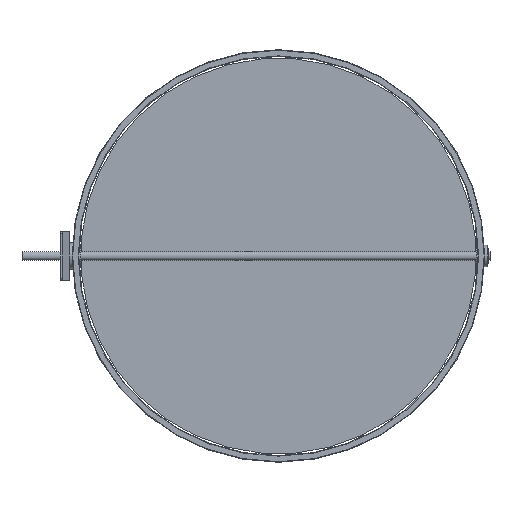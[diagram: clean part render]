
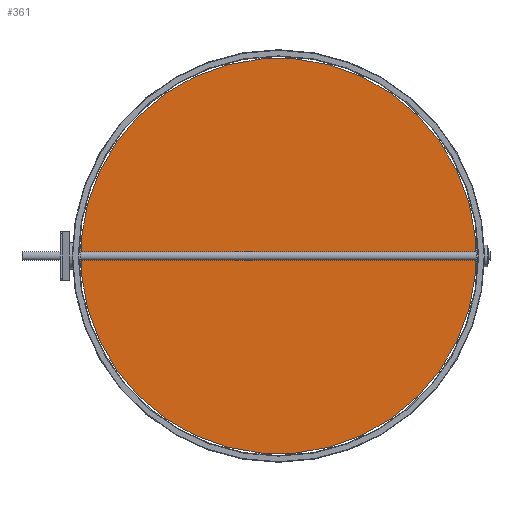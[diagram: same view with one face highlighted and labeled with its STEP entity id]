
A CAD part, left-side view. The second image highlights one B-rep face of the part: STEP entity #361.
In plain terms, the highlighted planar face has unit normal (-1, 0, 0).
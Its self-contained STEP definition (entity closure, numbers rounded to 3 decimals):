
#149=LINE('',#2045,#197);
#154=LINE('',#2059,#202);
#197=VECTOR('',#1633,1.);
#202=VECTOR('',#1646,1.);
#361=ADVANCED_FACE('',(#497,#498,#499,#500,#501,#502,#503,#504),#397,.T.);
#397=PLANE('',#1347);
#497=FACE_BOUND('',#641,.T.);
#498=FACE_BOUND('',#642,.T.);
#499=FACE_BOUND('',#643,.T.);
#500=FACE_BOUND('',#644,.T.);
#501=FACE_BOUND('',#645,.T.);
#502=FACE_BOUND('',#646,.T.);
#503=FACE_BOUND('',#647,.T.);
#504=FACE_BOUND('',#648,.T.);
#641=EDGE_LOOP('',(#883,#884,#885,#886));
#642=EDGE_LOOP('',(#887));
#643=EDGE_LOOP('',(#888));
#644=EDGE_LOOP('',(#889));
#645=EDGE_LOOP('',(#890));
#646=EDGE_LOOP('',(#891));
#647=EDGE_LOOP('',(#892));
#648=EDGE_LOOP('',(#893));
#883=ORIENTED_EDGE('',*,*,#1122,.T.);
#884=ORIENTED_EDGE('',*,*,#1101,.T.);
#885=ORIENTED_EDGE('',*,*,#1105,.T.);
#886=ORIENTED_EDGE('',*,*,#1108,.T.);
#887=ORIENTED_EDGE('',*,*,#1119,.T.);
#888=ORIENTED_EDGE('',*,*,#1117,.F.);
#889=ORIENTED_EDGE('',*,*,#1115,.F.);
#890=ORIENTED_EDGE('',*,*,#1113,.F.);
#891=ORIENTED_EDGE('',*,*,#1111,.F.);
#892=ORIENTED_EDGE('',*,*,#1109,.F.);
#893=ORIENTED_EDGE('',*,*,#1123,.F.);
#981=VERTEX_POINT('',#2044);
#982=VERTEX_POINT('',#2046);
#984=VERTEX_POINT('',#2052);
#986=VERTEX_POINT('',#2058);
#987=VERTEX_POINT('',#2062);
#989=VERTEX_POINT('',#2067);
#991=VERTEX_POINT('',#2072);
#993=VERTEX_POINT('',#2077);
#995=VERTEX_POINT('',#2082);
#997=VERTEX_POINT('',#2087);
#999=VERTEX_POINT('',#2095);
#1101=EDGE_CURVE('',#982,#981,#149,.T.);
#1105=EDGE_CURVE('',#981,#984,#1180,.T.);
#1108=EDGE_CURVE('',#984,#986,#154,.T.);
#1109=EDGE_CURVE('',#987,#987,#1181,.T.);
#1111=EDGE_CURVE('',#989,#989,#1183,.T.);
#1113=EDGE_CURVE('',#991,#991,#1185,.T.);
#1115=EDGE_CURVE('',#993,#993,#1187,.T.);
#1117=EDGE_CURVE('',#995,#995,#1189,.T.);
#1119=EDGE_CURVE('',#997,#997,#1191,.T.);
#1122=EDGE_CURVE('',#986,#982,#1194,.T.);
#1123=EDGE_CURVE('',#999,#999,#1195,.T.);
#1180=CIRCLE('',#1320,446.);
#1181=CIRCLE('',#1323,4.05);
#1183=CIRCLE('',#1326,4.05);
#1185=CIRCLE('',#1329,4.05);
#1187=CIRCLE('',#1332,4.05);
#1189=CIRCLE('',#1335,4.05);
#1191=CIRCLE('',#1338,4.05);
#1194=CIRCLE('',#1342,446.);
#1195=CIRCLE('',#1344,4.05);
#1320=AXIS2_PLACEMENT_3D('',#2053,#1640,#1641);
#1323=AXIS2_PLACEMENT_3D('',#2061,#1649,#1650);
#1326=AXIS2_PLACEMENT_3D('',#2066,#1655,#1656);
#1329=AXIS2_PLACEMENT_3D('',#2071,#1661,#1662);
#1332=AXIS2_PLACEMENT_3D('',#2076,#1667,#1668);
#1335=AXIS2_PLACEMENT_3D('',#2081,#1673,#1674);
#1338=AXIS2_PLACEMENT_3D('',#2086,#1679,#1680);
#1342=AXIS2_PLACEMENT_3D('',#2092,#1687,#1688);
#1344=AXIS2_PLACEMENT_3D('',#2094,#1691,#1692);
#1347=AXIS2_PLACEMENT_3D('',#2099,#1697,#1698);
#1633=DIRECTION('',(0.,0.,1.));
#1640=DIRECTION('',(-1.,0.,0.));
#1641=DIRECTION('',(0.,0.,1.));
#1646=DIRECTION('',(0.,0.,-1.));
#1649=DIRECTION('',(-1.,0.,0.));
#1650=DIRECTION('',(0.,0.,1.));
#1655=DIRECTION('',(-1.,0.,0.));
#1656=DIRECTION('',(0.,0.,1.));
#1661=DIRECTION('',(-1.,0.,0.));
#1662=DIRECTION('',(0.,0.,1.));
#1667=DIRECTION('',(-1.,0.,0.));
#1668=DIRECTION('',(0.,0.,1.));
#1673=DIRECTION('',(-1.,0.,0.));
#1674=DIRECTION('',(0.,0.,1.));
#1679=DIRECTION('',(1.,0.,0.));
#1680=DIRECTION('',(0.,0.,1.));
#1687=DIRECTION('',(-1.,0.,0.));
#1688=DIRECTION('',(0.,0.,1.));
#1691=DIRECTION('',(-1.,0.,0.));
#1692=DIRECTION('',(0.,0.,1.));
#1697=DIRECTION('',(-1.,0.,0.));
#1698=DIRECTION('',(0.,0.,1.));
#2044=CARTESIAN_POINT('',(-0.5,-553.,167.19));
#2045=CARTESIAN_POINT('',(-0.5,-553.,82.81));
#2046=CARTESIAN_POINT('',(-0.5,-553.,82.81));
#2052=CARTESIAN_POINT('',(-0.5,335.,167.19));
#2053=CARTESIAN_POINT('',(-0.5,-109.,125.));
#2058=CARTESIAN_POINT('',(-0.5,335.,82.81));
#2059=CARTESIAN_POINT('',(-0.5,335.,167.19));
#2061=CARTESIAN_POINT('',(-0.5,311.,125.));
#2062=CARTESIAN_POINT('',(-0.5,311.,129.05));
#2066=CARTESIAN_POINT('',(-0.5,-529.,125.));
#2067=CARTESIAN_POINT('',(-0.5,-529.,129.05));
#2071=CARTESIAN_POINT('',(-0.5,91.,125.));
#2072=CARTESIAN_POINT('',(-0.5,91.,129.05));
#2076=CARTESIAN_POINT('',(-0.5,-309.,125.));
#2077=CARTESIAN_POINT('',(-0.5,-309.,129.05));
#2081=CARTESIAN_POINT('',(-0.5,-109.,125.));
#2082=CARTESIAN_POINT('',(-0.5,-109.,129.05));
#2086=CARTESIAN_POINT('',(-0.5,-499.,125.));
#2087=CARTESIAN_POINT('',(-0.5,-499.,129.05));
#2092=CARTESIAN_POINT('',(-0.5,-109.,125.));
#2094=CARTESIAN_POINT('',(-0.5,281.,125.));
#2095=CARTESIAN_POINT('',(-0.5,281.,129.05));
#2099=CARTESIAN_POINT('',(-0.5,-109.,125.));
